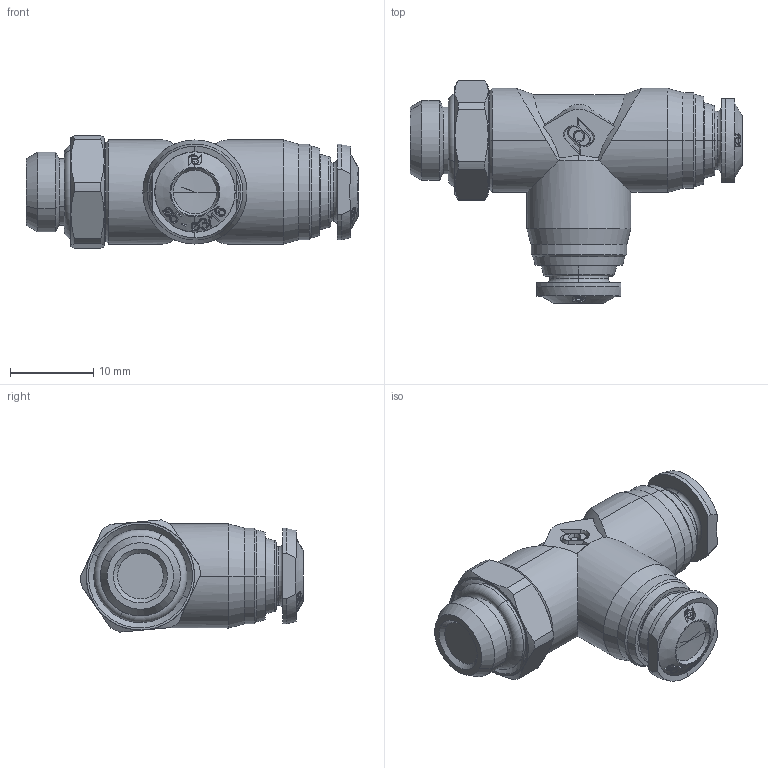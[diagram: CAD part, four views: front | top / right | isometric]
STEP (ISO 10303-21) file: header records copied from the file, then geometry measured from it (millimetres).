
FILE_DESCRIPTION (( 'STEP AP214' ), '1' );
FILE_NAME ('5022600006.step', '2012-10-01T16:51:00', ( '' ), ( '' ), 'SwSTEP 2.0', 'SolidWorks 2012', '' );
FILE_SCHEMA (( 'AUTOMOTIVE_DESIGN' ));
Length unit declared in the file: millimetre
Products named in the file (1): 5022600006
Bounding box: 39.9 x 26.8 x 13.5 mm (x, y, z)
Volume: 6083.4 mm3; surface area: 3738.9 mm2
Topology: 3 solids, 3 shells, 586 faces, 1516 edges, 974 vertices
Faces by surface type: bspline 256, cone 160, cylinder 65, plane 65, torus 40
Entity records: 37902 total; most frequent: CARTESIAN_POINT 19854, ORIENTED_EDGE 3024, DIRECTION 1555, EDGE_CURVE 1512, VERTEX_POINT 974, B_SPLINE_CURVE_WITH_KNOTS 940, AXIS2_PLACEMENT_3D 665, EDGE_LOOP 632
